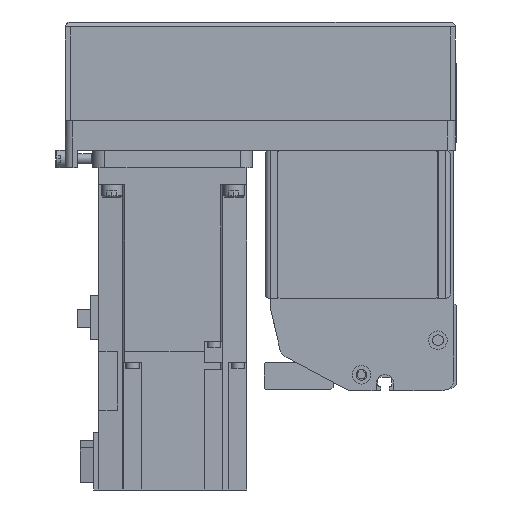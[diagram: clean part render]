
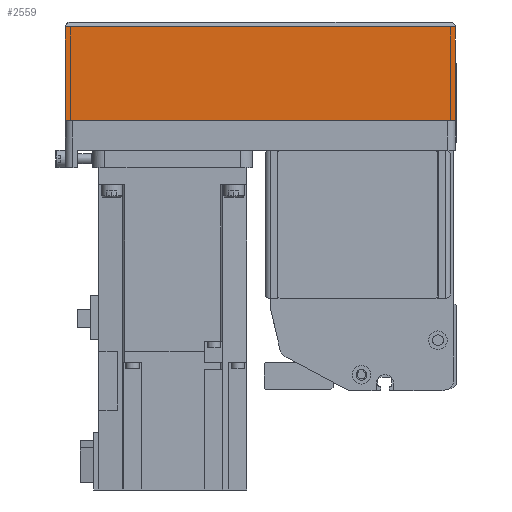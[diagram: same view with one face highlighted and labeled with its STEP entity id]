
A CAD part, left-side view. The second image highlights one B-rep face of the part: STEP entity #2559.
In plain terms, the highlighted planar face has unit normal (-1, 0, 0) as drawn and (0, 1, 0) by its records, which use the part's own axes.
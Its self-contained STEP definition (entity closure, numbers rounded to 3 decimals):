
#2559 = ADVANCED_FACE( '', ( #5465 ), #5466, .T. );
#5465 = FACE_OUTER_BOUND( '', #8648, .T. );
#5466 = PLANE( '', #8649 );
#8648 = EDGE_LOOP( '', ( #15936, #15937, #15938, #15939 ) );
#8649 = AXIS2_PLACEMENT_3D( '', #15940, #15941, #15942 );
#15936 = ORIENTED_EDGE( '', *, *, #20969, .F. );
#15937 = ORIENTED_EDGE( '', *, *, #21013, .F. );
#15938 = ORIENTED_EDGE( '', *, *, #21014, .T. );
#15939 = ORIENTED_EDGE( '', *, *, #19352, .T. );
#15940 = CARTESIAN_POINT( '', ( -158., 39., -50. ) );
#15941 = DIRECTION( '', ( 0., 1., 0. ) );
#15942 = DIRECTION( '', ( 0., 0., 1. ) );
#19352 = EDGE_CURVE( '', #23611, #22327, #23612, .T. );
#20969 = EDGE_CURVE( '', #23150, #22327, #25890, .T. );
#21013 = EDGE_CURVE( '', #25135, #23150, #25942, .T. );
#21014 = EDGE_CURVE( '', #25135, #23611, #25943, .T. );
#22327 = VERTEX_POINT( '', #27619 );
#23150 = VERTEX_POINT( '', #28833 );
#23611 = VERTEX_POINT( '', #29576 );
#23612 = LINE( '', #29577, #29578 );
#25135 = VERTEX_POINT( '', #31831 );
#25890 = LINE( '', #32943, #32944 );
#25942 = LINE( '', #33019, #33020 );
#25943 = LINE( '', #33021, #33022 );
#27619 = CARTESIAN_POINT( '', ( 0., 39., -12.1 ) );
#28833 = CARTESIAN_POINT( '', ( 0., 39., -50. ) );
#29576 = CARTESIAN_POINT( '', ( -158., 39., -12.1 ) );
#29577 = CARTESIAN_POINT( '', ( -158., 39., -12.1 ) );
#29578 = VECTOR( '', #35325, 1000. );
#31831 = CARTESIAN_POINT( '', ( -158., 39., -50. ) );
#32943 = CARTESIAN_POINT( '', ( 0., 39., -50. ) );
#32944 = VECTOR( '', #37177, 1000. );
#33019 = CARTESIAN_POINT( '', ( -158., 39., -50. ) );
#33020 = VECTOR( '', #37225, 1000. );
#33021 = CARTESIAN_POINT( '', ( -158., 39., -50. ) );
#33022 = VECTOR( '', #37226, 1000. );
#35325 = DIRECTION( '', ( 1., 0., 0. ) );
#37177 = DIRECTION( '', ( 0., 0., 1. ) );
#37225 = DIRECTION( '', ( 1., 0., 0. ) );
#37226 = DIRECTION( '', ( 0., 0., 1. ) );
